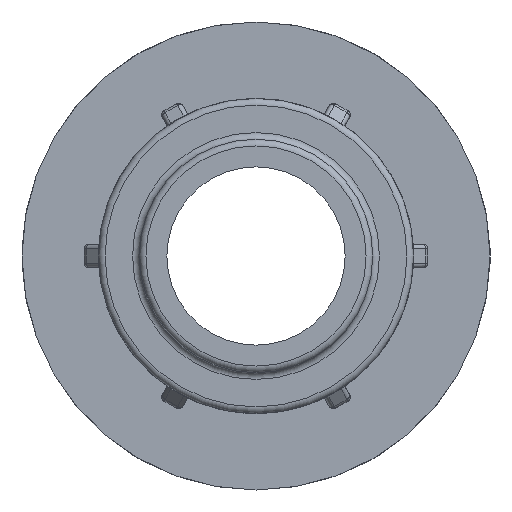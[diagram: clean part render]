
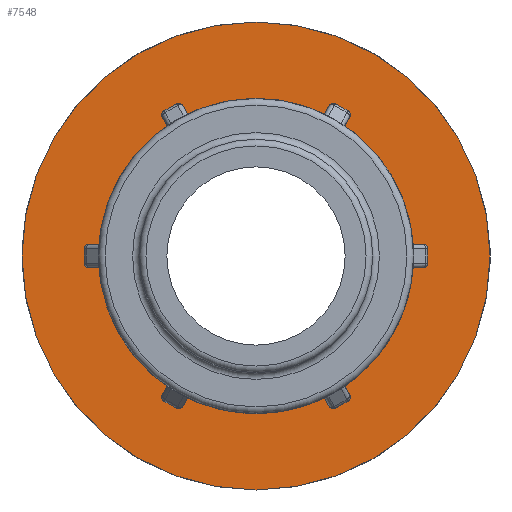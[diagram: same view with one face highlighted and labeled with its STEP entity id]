
A CAD part, left-side view. The second image highlights one B-rep face of the part: STEP entity #7548.
In plain terms, the highlighted planar face has unit normal (-1, 0, 0).
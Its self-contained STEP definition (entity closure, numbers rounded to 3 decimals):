
#26=FACE_BOUND('',#1424,.T.);
#113=ELLIPSE('',#7628,0.566,0.4);
#114=ELLIPSE('',#7649,0.566,0.4);
#117=ELLIPSE('',#7744,0.566,0.4);
#118=ELLIPSE('',#7765,0.566,0.4);
#121=ELLIPSE('',#7860,0.566,0.4);
#122=ELLIPSE('',#7881,0.566,0.4);
#125=ELLIPSE('',#7976,0.566,0.4);
#126=ELLIPSE('',#7997,0.566,0.4);
#129=ELLIPSE('',#8092,0.566,0.4);
#130=ELLIPSE('',#8113,0.566,0.4);
#134=ELLIPSE('',#8383,0.566,0.4);
#135=ELLIPSE('',#8404,0.566,0.4);
#288=PLANE('',#8471);
#943=FACE_OUTER_BOUND('',#1423,.T.);
#1423=EDGE_LOOP('',(#6832));
#1424=EDGE_LOOP('',(#6833,#6834,#6835,#6836,#6837,#6838,#6839,#6840,#6841,
#6842,#6843,#6844,#6845,#6846,#6847,#6848,#6849,#6850,#6851,#6852,#6853,
#6854,#6855,#6856));
#1476=LINE('',#11109,#1926);
#1535=LINE('',#11584,#1985);
#1594=LINE('',#12059,#2044);
#1653=LINE('',#12532,#2103);
#1712=LINE('',#13007,#2162);
#1859=LINE('',#14357,#2309);
#1926=VECTOR('',#8664,1.3);
#1985=VECTOR('',#8955,1.3);
#2044=VECTOR('',#9246,1.3);
#2103=VECTOR('',#9537,1.3);
#2162=VECTOR('',#9828,1.3);
#2309=VECTOR('',#10557,1.3);
#2755=CIRCLE('',#8309,14.073);
#2756=CIRCLE('',#8311,14.073);
#2757=CIRCLE('',#8313,14.073);
#2758=CIRCLE('',#8315,14.073);
#2759=CIRCLE('',#8317,14.073);
#2842=CIRCLE('',#8472,21.);
#2843=CIRCLE('',#8473,14.073);
#2907=VERTEX_POINT('',#11089);
#2908=VERTEX_POINT('',#11101);
#2910=VERTEX_POINT('',#11107);
#2923=VERTEX_POINT('',#11164);
#2996=VERTEX_POINT('',#11564);
#2997=VERTEX_POINT('',#11576);
#2999=VERTEX_POINT('',#11582);
#3012=VERTEX_POINT('',#11639);
#3085=VERTEX_POINT('',#12039);
#3086=VERTEX_POINT('',#12051);
#3088=VERTEX_POINT('',#12057);
#3101=VERTEX_POINT('',#12114);
#3174=VERTEX_POINT('',#12512);
#3175=VERTEX_POINT('',#12524);
#3177=VERTEX_POINT('',#12530);
#3190=VERTEX_POINT('',#12587);
#3263=VERTEX_POINT('',#12987);
#3264=VERTEX_POINT('',#12999);
#3266=VERTEX_POINT('',#13005);
#3279=VERTEX_POINT('',#13062);
#3435=VERTEX_POINT('',#14101);
#3482=VERTEX_POINT('',#14337);
#3483=VERTEX_POINT('',#14349);
#3485=VERTEX_POINT('',#14355);
#3521=VERTEX_POINT('',#14551);
#3611=EDGE_CURVE('',#2908,#2907,#113,.F.);
#3614=EDGE_CURVE('',#2908,#2910,#1476,.T.);
#3639=EDGE_CURVE('',#2910,#2923,#114,.T.);
#3753=EDGE_CURVE('',#2997,#2996,#117,.F.);
#3756=EDGE_CURVE('',#2997,#2999,#1535,.T.);
#3781=EDGE_CURVE('',#2999,#3012,#118,.T.);
#3895=EDGE_CURVE('',#3086,#3085,#121,.F.);
#3898=EDGE_CURVE('',#3086,#3088,#1594,.T.);
#3923=EDGE_CURVE('',#3088,#3101,#122,.T.);
#4037=EDGE_CURVE('',#3175,#3174,#125,.F.);
#4040=EDGE_CURVE('',#3175,#3177,#1653,.T.);
#4065=EDGE_CURVE('',#3177,#3190,#126,.T.);
#4179=EDGE_CURVE('',#3264,#3263,#129,.F.);
#4182=EDGE_CURVE('',#3264,#3266,#1712,.T.);
#4207=EDGE_CURVE('',#3266,#3279,#130,.T.);
#4483=EDGE_CURVE('',#3263,#3435,#2755,.F.);
#4486=EDGE_CURVE('',#3279,#3174,#2756,.T.);
#4487=EDGE_CURVE('',#3190,#3085,#2757,.T.);
#4488=EDGE_CURVE('',#3101,#2996,#2758,.T.);
#4489=EDGE_CURVE('',#3012,#2907,#2759,.T.);
#4567=EDGE_CURVE('',#3483,#3482,#134,.F.);
#4570=EDGE_CURVE('',#3483,#3485,#1859,.T.);
#4594=EDGE_CURVE('',#3485,#3435,#135,.T.);
#4644=EDGE_CURVE('',#3521,#3521,#2842,.T.);
#4645=EDGE_CURVE('',#2923,#3482,#2843,.T.);
#6832=ORIENTED_EDGE('',*,*,#4644,.F.);
#6833=ORIENTED_EDGE('',*,*,#4645,.T.);
#6834=ORIENTED_EDGE('',*,*,#4567,.F.);
#6835=ORIENTED_EDGE('',*,*,#4570,.T.);
#6836=ORIENTED_EDGE('',*,*,#4594,.T.);
#6837=ORIENTED_EDGE('',*,*,#4483,.F.);
#6838=ORIENTED_EDGE('',*,*,#4179,.F.);
#6839=ORIENTED_EDGE('',*,*,#4182,.T.);
#6840=ORIENTED_EDGE('',*,*,#4207,.T.);
#6841=ORIENTED_EDGE('',*,*,#4486,.T.);
#6842=ORIENTED_EDGE('',*,*,#4037,.F.);
#6843=ORIENTED_EDGE('',*,*,#4040,.T.);
#6844=ORIENTED_EDGE('',*,*,#4065,.T.);
#6845=ORIENTED_EDGE('',*,*,#4487,.T.);
#6846=ORIENTED_EDGE('',*,*,#3895,.F.);
#6847=ORIENTED_EDGE('',*,*,#3898,.T.);
#6848=ORIENTED_EDGE('',*,*,#3923,.T.);
#6849=ORIENTED_EDGE('',*,*,#4488,.T.);
#6850=ORIENTED_EDGE('',*,*,#3753,.F.);
#6851=ORIENTED_EDGE('',*,*,#3756,.T.);
#6852=ORIENTED_EDGE('',*,*,#3781,.T.);
#6853=ORIENTED_EDGE('',*,*,#4489,.T.);
#6854=ORIENTED_EDGE('',*,*,#3611,.F.);
#6855=ORIENTED_EDGE('',*,*,#3614,.T.);
#6856=ORIENTED_EDGE('',*,*,#3639,.T.);
#7548=ADVANCED_FACE('',(#943,#26),#288,.T.);
#7628=AXIS2_PLACEMENT_3D('',#11103,#8658,#8659);
#7649=AXIS2_PLACEMENT_3D('',#11165,#8720,#8721);
#7744=AXIS2_PLACEMENT_3D('',#11578,#8949,#8950);
#7765=AXIS2_PLACEMENT_3D('',#11640,#9011,#9012);
#7860=AXIS2_PLACEMENT_3D('',#12053,#9240,#9241);
#7881=AXIS2_PLACEMENT_3D('',#12115,#9302,#9303);
#7976=AXIS2_PLACEMENT_3D('',#12526,#9531,#9532);
#7997=AXIS2_PLACEMENT_3D('',#12588,#9593,#9594);
#8092=AXIS2_PLACEMENT_3D('',#13001,#9822,#9823);
#8113=AXIS2_PLACEMENT_3D('',#13063,#9884,#9885);
#8309=AXIS2_PLACEMENT_3D('',#14102,#10371,#10372);
#8311=AXIS2_PLACEMENT_3D('',#14118,#10375,#10376);
#8313=AXIS2_PLACEMENT_3D('',#14120,#10379,#10380);
#8315=AXIS2_PLACEMENT_3D('',#14122,#10383,#10384);
#8317=AXIS2_PLACEMENT_3D('',#14124,#10387,#10388);
#8383=AXIS2_PLACEMENT_3D('',#14351,#10551,#10552);
#8404=AXIS2_PLACEMENT_3D('',#14405,#10613,#10614);
#8471=AXIS2_PLACEMENT_3D('',#14550,#10762,#10763);
#8472=AXIS2_PLACEMENT_3D('',#14552,#10764,#10765);
#8473=AXIS2_PLACEMENT_3D('',#14553,#10766,#10767);
#8658=DIRECTION('center_axis',(1.,0.,0.));
#8659=DIRECTION('ref_axis',(0.,0.5,-0.866));
#8664=DIRECTION('',(0.,0.866,0.5));
#8720=DIRECTION('center_axis',(1.,0.,0.));
#8721=DIRECTION('ref_axis',(0.,0.5,-0.866));
#8949=DIRECTION('center_axis',(1.,0.,0.));
#8950=DIRECTION('ref_axis',(0.,-0.5,-0.866));
#8955=DIRECTION('',(0.,0.866,-0.5));
#9011=DIRECTION('center_axis',(1.,0.,0.));
#9012=DIRECTION('ref_axis',(0.,-0.5,-0.866));
#9240=DIRECTION('center_axis',(1.,0.,0.));
#9241=DIRECTION('ref_axis',(0.,-1.,0.));
#9246=DIRECTION('',(0.,0.,-1.));
#9302=DIRECTION('center_axis',(1.,0.,0.));
#9303=DIRECTION('ref_axis',(0.,-1.,0.));
#9531=DIRECTION('center_axis',(1.,0.,0.));
#9532=DIRECTION('ref_axis',(0.,-0.5,0.866));
#9537=DIRECTION('',(0.,-0.866,-0.5));
#9593=DIRECTION('center_axis',(1.,0.,0.));
#9594=DIRECTION('ref_axis',(0.,-0.5,0.866));
#9822=DIRECTION('center_axis',(1.,0.,0.));
#9823=DIRECTION('ref_axis',(0.,0.5,0.866));
#9828=DIRECTION('',(0.,-0.866,0.5));
#9884=DIRECTION('center_axis',(1.,0.,0.));
#9885=DIRECTION('ref_axis',(0.,0.5,0.866));
#10371=DIRECTION('center_axis',(1.,0.,0.));
#10372=DIRECTION('ref_axis',(0.,1.,0.));
#10375=DIRECTION('center_axis',(1.,0.,0.));
#10376=DIRECTION('ref_axis',(0.,1.,0.));
#10379=DIRECTION('center_axis',(1.,0.,0.));
#10380=DIRECTION('ref_axis',(0.,1.,0.));
#10383=DIRECTION('center_axis',(1.,0.,0.));
#10384=DIRECTION('ref_axis',(0.,1.,0.));
#10387=DIRECTION('center_axis',(1.,0.,0.));
#10388=DIRECTION('ref_axis',(0.,1.,0.));
#10551=DIRECTION('center_axis',(1.,0.,0.));
#10552=DIRECTION('ref_axis',(0.,1.,0.));
#10557=DIRECTION('',(0.,0.,1.));
#10613=DIRECTION('center_axis',(1.,0.,0.));
#10614=DIRECTION('ref_axis',(0.,1.,0.));
#10762=DIRECTION('center_axis',(-1.,0.,0.));
#10763=DIRECTION('ref_axis',(0.,0.,1.));
#10764=DIRECTION('center_axis',(1.,0.,0.));
#10765=DIRECTION('ref_axis',(0.,0.,-1.));
#10766=DIRECTION('center_axis',(1.,0.,0.));
#10767=DIRECTION('ref_axis',(0.,1.,0.));
#11089=CARTESIAN_POINT('',(18.45,6.371,-12.548));
#11101=CARTESIAN_POINT('',(18.45,6.474,-12.513));
#11103=CARTESIAN_POINT('Origin',(18.45,6.191,-12.023));
#11107=CARTESIAN_POINT('',(18.45,7.599,-11.863));
#11109=CARTESIAN_POINT('',(18.45,14.912,-7.641));
#11164=CARTESIAN_POINT('',(18.45,7.681,-11.792));
#11165=CARTESIAN_POINT('Origin',(18.45,7.317,-11.373));
#11564=CARTESIAN_POINT('',(18.45,-7.681,-11.792));
#11576=CARTESIAN_POINT('',(18.45,-7.599,-11.863));
#11578=CARTESIAN_POINT('Origin',(18.45,-7.317,-11.373));
#11582=CARTESIAN_POINT('',(18.45,-6.474,-12.513));
#11584=CARTESIAN_POINT('',(18.45,0.838,-16.734));
#11639=CARTESIAN_POINT('',(18.45,-6.371,-12.548));
#11640=CARTESIAN_POINT('Origin',(18.45,-6.191,-12.023));
#12039=CARTESIAN_POINT('',(18.45,-14.053,0.756));
#12051=CARTESIAN_POINT('',(18.45,-14.073,0.65));
#12053=CARTESIAN_POINT('Origin',(18.45,-13.507,0.65));
#12057=CARTESIAN_POINT('',(18.45,-14.073,-0.65));
#12059=CARTESIAN_POINT('',(18.45,-14.073,0.));
#12114=CARTESIAN_POINT('',(18.45,-14.053,-0.756));
#12115=CARTESIAN_POINT('Origin',(18.45,-13.507,-0.65));
#12512=CARTESIAN_POINT('',(18.45,-6.371,12.548));
#12524=CARTESIAN_POINT('',(18.45,-6.474,12.513));
#12526=CARTESIAN_POINT('Origin',(18.45,-6.191,12.023));
#12530=CARTESIAN_POINT('',(18.45,-7.599,11.863));
#12532=CARTESIAN_POINT('',(18.45,0.838,16.734));
#12587=CARTESIAN_POINT('',(18.45,-7.681,11.792));
#12588=CARTESIAN_POINT('Origin',(18.45,-7.317,11.373));
#12987=CARTESIAN_POINT('',(18.45,7.681,11.792));
#12999=CARTESIAN_POINT('',(18.45,7.599,11.863));
#13001=CARTESIAN_POINT('Origin',(18.45,7.317,11.373));
#13005=CARTESIAN_POINT('',(18.45,6.474,12.513));
#13007=CARTESIAN_POINT('',(18.45,14.912,7.641));
#13062=CARTESIAN_POINT('',(18.45,6.371,12.548));
#13063=CARTESIAN_POINT('Origin',(18.45,6.191,12.023));
#14101=CARTESIAN_POINT('',(18.45,14.053,0.756));
#14102=CARTESIAN_POINT('Origin',(18.45,0.,0.));
#14118=CARTESIAN_POINT('Origin',(18.45,0.,0.));
#14120=CARTESIAN_POINT('Origin',(18.45,0.,0.));
#14122=CARTESIAN_POINT('Origin',(18.45,0.,0.));
#14124=CARTESIAN_POINT('Origin',(18.45,0.,0.));
#14337=CARTESIAN_POINT('',(18.45,14.053,-0.756));
#14349=CARTESIAN_POINT('',(18.45,14.073,-0.65));
#14351=CARTESIAN_POINT('Origin',(18.45,13.507,-0.65));
#14355=CARTESIAN_POINT('',(18.45,14.073,0.65));
#14357=CARTESIAN_POINT('',(18.45,14.073,0.));
#14405=CARTESIAN_POINT('Origin',(18.45,13.507,0.65));
#14550=CARTESIAN_POINT('Origin',(18.45,21.,0.));
#14551=CARTESIAN_POINT('',(18.45,21.,0.));
#14552=CARTESIAN_POINT('Origin',(18.45,0.,0.));
#14553=CARTESIAN_POINT('Origin',(18.45,0.,0.));
